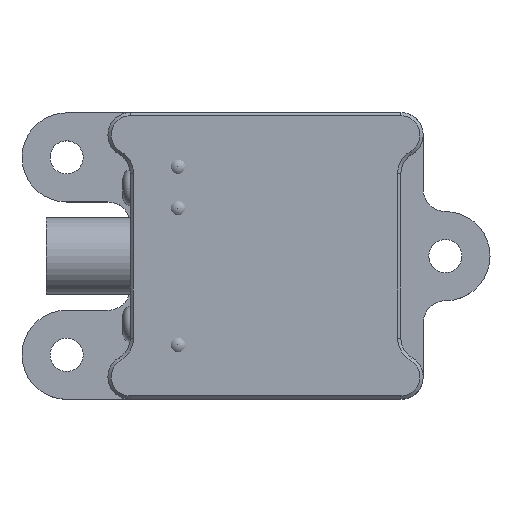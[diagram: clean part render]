
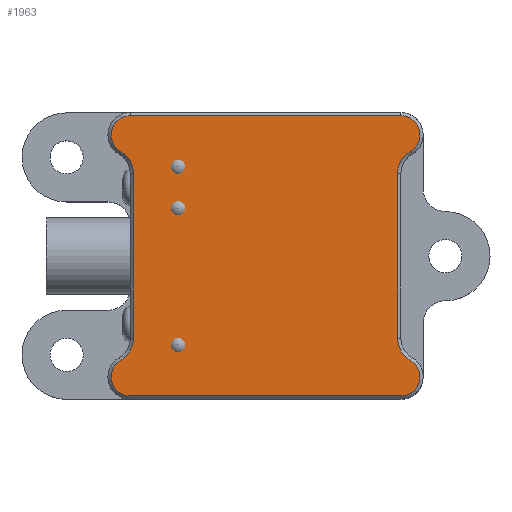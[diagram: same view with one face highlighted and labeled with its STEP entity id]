
A CAD part, top view. The second image highlights one B-rep face of the part: STEP entity #1963.
In plain terms, the highlighted planar face has unit normal (0, 0, 1).
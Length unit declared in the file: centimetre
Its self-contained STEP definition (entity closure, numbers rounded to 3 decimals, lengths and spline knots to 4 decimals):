
#309=VECTOR('',#2599,1.);
#317=VECTOR('',#2630,1.);
#320=VECTOR('',#2634,1.);
#326=VECTOR('',#2665,1.);
#445=LINE('',#3178,#309);
#453=LINE('',#3207,#317);
#456=LINE('',#3213,#320);
#462=LINE('',#3240,#326);
#528=PLANE('',#2174);
#682=VERTEX_POINT('',#3177);
#683=VERTEX_POINT('',#3179);
#685=VERTEX_POINT('',#3185);
#686=VERTEX_POINT('',#3190);
#688=VERTEX_POINT('',#3196);
#689=VERTEX_POINT('',#3200);
#691=VERTEX_POINT('',#3206);
#692=VERTEX_POINT('',#3210);
#695=VERTEX_POINT('',#3217);
#696=VERTEX_POINT('',#3222);
#699=VERTEX_POINT('',#3229);
#700=VERTEX_POINT('',#3234);
#783=CIRCLE('',#2145,0.3);
#786=CIRCLE('',#2149,0.3);
#787=CIRCLE('',#2151,0.4);
#789=CIRCLE('',#2154,0.4);
#790=CIRCLE('',#2158,0.4);
#793=CIRCLE('',#2162,0.4);
#794=CIRCLE('',#2164,0.3);
#797=CIRCLE('',#2168,0.3);
#998=EDGE_CURVE('',#682,#683,#445,.T.);
#1002=EDGE_CURVE('',#685,#682,#783,.T.);
#1006=EDGE_CURVE('',#683,#686,#786,.T.);
#1008=EDGE_CURVE('',#688,#685,#787,.T.);
#1011=EDGE_CURVE('',#686,#689,#789,.T.);
#1013=EDGE_CURVE('',#691,#688,#453,.T.);
#1016=EDGE_CURVE('',#689,#692,#456,.T.);
#1018=EDGE_CURVE('',#695,#691,#790,.T.);
#1022=EDGE_CURVE('',#692,#696,#793,.T.);
#1024=EDGE_CURVE('',#699,#695,#794,.T.);
#1028=EDGE_CURVE('',#696,#700,#797,.T.);
#1030=EDGE_CURVE('',#700,#699,#462,.T.);
#1481=ORIENTED_EDGE('',*,*,#998,.F.);
#1482=ORIENTED_EDGE('',*,*,#1002,.F.);
#1483=ORIENTED_EDGE('',*,*,#1008,.F.);
#1484=ORIENTED_EDGE('',*,*,#1013,.F.);
#1485=ORIENTED_EDGE('',*,*,#1018,.F.);
#1486=ORIENTED_EDGE('',*,*,#1024,.F.);
#1487=ORIENTED_EDGE('',*,*,#1030,.F.);
#1488=ORIENTED_EDGE('',*,*,#1028,.F.);
#1489=ORIENTED_EDGE('',*,*,#1022,.F.);
#1490=ORIENTED_EDGE('',*,*,#1016,.F.);
#1491=ORIENTED_EDGE('',*,*,#1011,.F.);
#1492=ORIENTED_EDGE('',*,*,#1006,.F.);
#1681=EDGE_LOOP('',(#1481,#1482,#1483,#1484,#1485,#1486,#1487,#1488,#1489,
#1490,#1491,#1492));
#1846=FACE_BOUND('',#1681,.T.);
#1963=ADVANCED_FACE('',(#1846),#528,.T.);
#2145=AXIS2_PLACEMENT_3D('',#3186,#2605,#2606);
#2149=AXIS2_PLACEMENT_3D('',#3193,#2614,#2615);
#2151=AXIS2_PLACEMENT_3D('',#3197,#2619,#2620);
#2154=AXIS2_PLACEMENT_3D('',#3203,#2626,#2627);
#2158=AXIS2_PLACEMENT_3D('',#3218,#2638,#2639);
#2162=AXIS2_PLACEMENT_3D('',#3225,#2647,#2648);
#2164=AXIS2_PLACEMENT_3D('',#3230,#2652,#2653);
#2168=AXIS2_PLACEMENT_3D('',#3237,#2661,#2662);
#2174=AXIS2_PLACEMENT_3D('',#3249,#2677,$);
#2599=DIRECTION('',(1.,0.,0.));
#2605=DIRECTION('',(0.,0.,-1.));
#2606=DIRECTION('',(-0.29,0.078,0.));
#2614=DIRECTION('',(0.,0.,-1.));
#2615=DIRECTION('',(0.29,0.078,0.));
#2619=DIRECTION('',(0.,0.,1.));
#2620=DIRECTION('',(0.346,0.2,0.));
#2626=DIRECTION('',(0.,0.,1.));
#2627=DIRECTION('',(-0.346,0.2,0.));
#2630=DIRECTION('',(0.,1.,0.));
#2634=DIRECTION('',(0.,-1.,0.));
#2638=DIRECTION('',(0.,0.,1.));
#2639=DIRECTION('',(0.346,-0.2,0.));
#2647=DIRECTION('',(0.,0.,1.));
#2648=DIRECTION('',(-0.346,-0.2,0.));
#2652=DIRECTION('',(0.,0.,-1.));
#2653=DIRECTION('',(-0.29,-0.078,0.));
#2661=DIRECTION('',(0.,0.,-1.));
#2662=DIRECTION('',(0.29,-0.078,0.));
#2665=DIRECTION('',(-1.,0.,0.));
#2677=DIRECTION('',(0.,0.,1.));
#3177=CARTESIAN_POINT('',(0.35,4.45,2.4));
#3178=CARTESIAN_POINT('',(2.475,4.45,2.4));
#3179=CARTESIAN_POINT('',(4.6,4.45,2.4));
#3185=CARTESIAN_POINT('',(0.2,3.8902,2.4));
#3186=CARTESIAN_POINT('',(0.35,4.15,2.4));
#3190=CARTESIAN_POINT('',(4.75,3.8902,2.4));
#3193=CARTESIAN_POINT('',(4.6,4.15,2.4));
#3196=CARTESIAN_POINT('',(0.4,3.5438,2.4));
#3197=CARTESIAN_POINT('',(0.,3.5438,2.4));
#3200=CARTESIAN_POINT('',(4.55,3.5438,2.4));
#3203=CARTESIAN_POINT('',(4.95,3.5438,2.4));
#3206=CARTESIAN_POINT('',(0.4,0.9562,2.4));
#3207=CARTESIAN_POINT('',(0.4,2.25,2.4));
#3210=CARTESIAN_POINT('',(4.55,0.9562,2.4));
#3213=CARTESIAN_POINT('',(4.55,2.25,2.4));
#3217=CARTESIAN_POINT('',(0.2,0.6098,2.4));
#3218=CARTESIAN_POINT('',(0.,0.9562,2.4));
#3222=CARTESIAN_POINT('',(4.75,0.6098,2.4));
#3225=CARTESIAN_POINT('',(4.95,0.9562,2.4));
#3229=CARTESIAN_POINT('',(0.35,0.05,2.4));
#3230=CARTESIAN_POINT('',(0.35,0.35,2.4));
#3234=CARTESIAN_POINT('',(4.6,0.05,2.4));
#3237=CARTESIAN_POINT('',(4.6,0.35,2.4));
#3240=CARTESIAN_POINT('',(2.475,0.05,2.4));
#3249=CARTESIAN_POINT('',(2.475,2.25,2.4));
